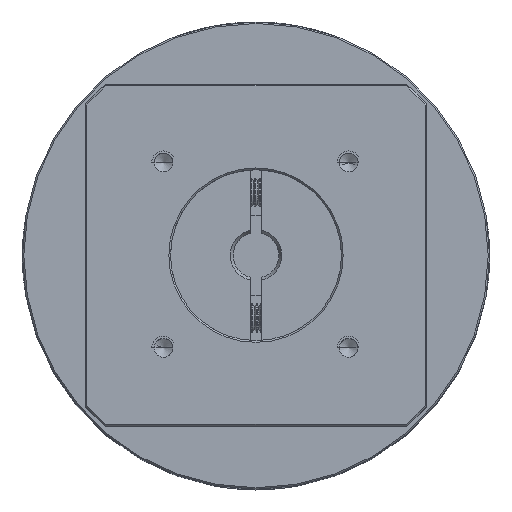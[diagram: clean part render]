
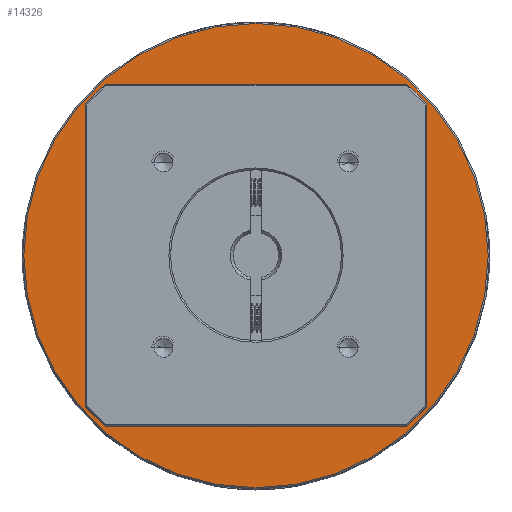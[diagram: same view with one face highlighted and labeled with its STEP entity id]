
A CAD part, top view. The second image highlights one B-rep face of the part: STEP entity #14326.
In plain terms, the highlighted planar face has unit normal (0, 0, 1).
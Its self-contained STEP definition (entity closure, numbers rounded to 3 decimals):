
#2525 = EDGE_CURVE ( 'NONE', #107274, #102391, #11116, .T. ) ;
#2724 = CARTESIAN_POINT ( 'NONE',  ( -63.822, 16.368, -29.622 ) ) ;
#4370 = CARTESIAN_POINT ( 'NONE',  ( -63.822, 16.368, -29.622 ) ) ;
#7153 = FACE_BOUND ( 'NONE', #57791, .T. ) ;
#10368 = ORIENTED_EDGE ( 'NONE', *, *, #64462, .T. ) ;
#11116 = CIRCLE ( 'NONE', #48959, 40.75 ) ;
#12044 = DIRECTION ( 'NONE',  ( 1., 0., 0. ) ) ;
#13671 = DIRECTION ( 'NONE',  ( -1., 0., 0. ) ) ;
#14326 = ADVANCED_FACE ( 'NONE', ( #77572, #7153 ), #38951, .T. ) ;
#26010 = CARTESIAN_POINT ( 'NONE',  ( -63.822, 16.368, -29.622 ) ) ;
#28896 = DIRECTION ( 'NONE',  ( 0., 0., -1. ) ) ;
#31631 = CIRCLE ( 'NONE', #111990, 40.75 ) ;
#38930 = VERTEX_POINT ( 'NONE', #95430 ) ;
#38951 = PLANE ( 'NONE',  #97884 ) ;
#42614 = EDGE_LOOP ( 'NONE', ( #48876, #68936 ) ) ;
#42632 = CIRCLE ( 'NONE', #44494, 30. ) ;
#43679 = DIRECTION ( 'NONE',  ( -1., 0., 0. ) ) ;
#43838 = EDGE_CURVE ( 'NONE', #102391, #107274, #31631, .T. ) ;
#44046 = DIRECTION ( 'NONE',  ( 0., 0., -1. ) ) ;
#44494 = AXIS2_PLACEMENT_3D ( 'NONE', #83728, #28896, #92935 ) ;
#48876 = ORIENTED_EDGE ( 'NONE', *, *, #43838, .F. ) ;
#48959 = AXIS2_PLACEMENT_3D ( 'NONE', #26010, #44046, #43679 ) ;
#53684 = DIRECTION ( 'NONE',  ( 0., 0., -1. ) ) ;
#57791 = EDGE_LOOP ( 'NONE', ( #72004, #10368 ) ) ;
#61879 = CARTESIAN_POINT ( 'NONE',  ( -33.822, 16.368, -29.622 ) ) ;
#62866 = CIRCLE ( 'NONE', #107029, 30. ) ;
#64462 = EDGE_CURVE ( 'NONE', #112727, #38930, #62866, .T. ) ;
#66995 = DIRECTION ( 'NONE',  ( 0., 0., 1. ) ) ;
#68638 = DIRECTION ( 'NONE',  ( 0., 0., -1. ) ) ;
#68936 = ORIENTED_EDGE ( 'NONE', *, *, #2525, .F. ) ;
#72004 = ORIENTED_EDGE ( 'NONE', *, *, #77604, .T. ) ;
#77572 = FACE_OUTER_BOUND ( 'NONE', #42614, .T. ) ;
#77604 = EDGE_CURVE ( 'NONE', #38930, #112727, #42632, .T. ) ;
#83728 = CARTESIAN_POINT ( 'NONE',  ( -63.822, 16.368, -29.622 ) ) ;
#92720 = CARTESIAN_POINT ( 'NONE',  ( -23.072, 16.368, -29.622 ) ) ;
#92935 = DIRECTION ( 'NONE',  ( -1., 0., 0. ) ) ;
#95430 = CARTESIAN_POINT ( 'NONE',  ( -93.822, 16.368, -29.622 ) ) ;
#97884 = AXIS2_PLACEMENT_3D ( 'NONE', #2724, #66995, #12044 ) ;
#102391 = VERTEX_POINT ( 'NONE', #107996 ) ;
#107029 = AXIS2_PLACEMENT_3D ( 'NONE', #108408, #53684, #117569 ) ;
#107274 = VERTEX_POINT ( 'NONE', #92720 ) ;
#107996 = CARTESIAN_POINT ( 'NONE',  ( -104.572, 16.368, -29.622 ) ) ;
#108408 = CARTESIAN_POINT ( 'NONE',  ( -63.822, 16.368, -29.622 ) ) ;
#111990 = AXIS2_PLACEMENT_3D ( 'NONE', #4370, #68638, #13671 ) ;
#112727 = VERTEX_POINT ( 'NONE', #61879 ) ;
#117569 = DIRECTION ( 'NONE',  ( -1., 0., 0. ) ) ;
